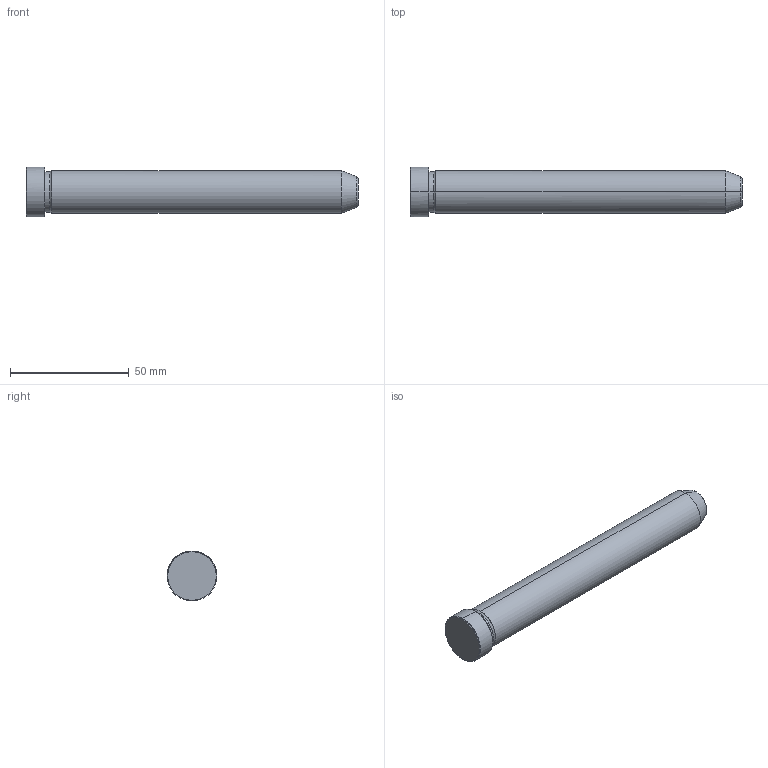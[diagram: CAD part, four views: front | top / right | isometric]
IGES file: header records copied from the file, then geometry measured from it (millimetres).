
Start section: START RECORD GO HERE.
Global section: file name: 549-18X140.igs; native system: DASSAULT SYSTEMES CATIA V5 R20 - www.3ds.com; preprocessor: CATIA Version 5 Release 20 ; author: Utente; organization: NB04-ASUS; date: 20211211.104122; units: millimetre
Bounding box: 140 x 21 x 21 mm (x, y, z)
Surface area: 8511.4 mm2 (no closed solid volume)
Topology: 0 solids, 0 shells, 19 faces, 112 edges, 112 vertices
Faces by surface type: revolution 16, plane 3
